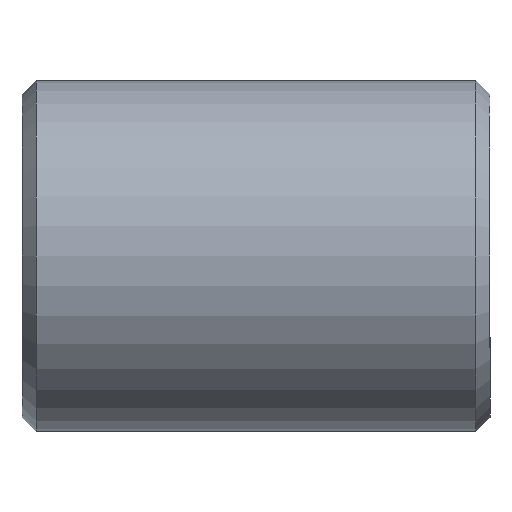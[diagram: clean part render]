
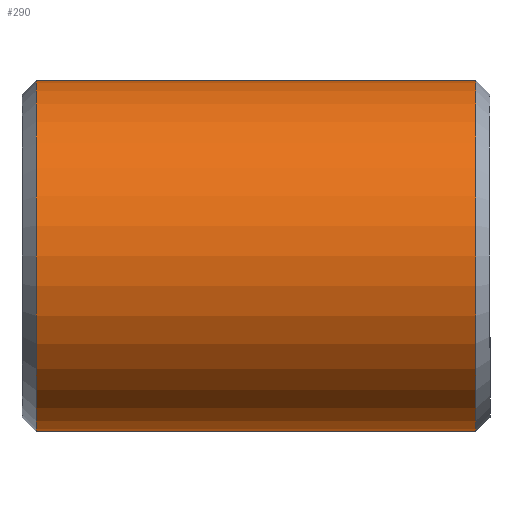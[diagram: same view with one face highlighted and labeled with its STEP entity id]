
A CAD part, front view. The second image highlights one B-rep face of the part: STEP entity #290.
In plain terms, the highlighted cylindrical face has radius 4.763 mm (diameter 9.525 mm), a partial arc.
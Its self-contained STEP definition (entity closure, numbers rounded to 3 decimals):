
#182=CARTESIAN_POINT('POINT13',(-12.319,0.,
   -4.763));
#183=VERTEX_POINT('VERTEX13',#182);
#191=CARTESIAN_POINT('POINT14',(-12.319,0.,
   4.763));
#192=VERTEX_POINT('VERTEX14',#191);
#199=CARTESIAN_POINT('POS20',(-12.319,0.,
   0.));
#200=DIRECTION('DIR31',(1.,0.,
   0.));
#201=DIRECTION('DIR32',(0.,0.,
   1.));
#202=AXIS2_PLACEMENT_3D('AXIS12',#199,#200,#201);
#203=CIRCLE('ELLIPSE7',#202,4.763);
#214=CARTESIAN_POINT('POINT15',(-0.381,
   0.,4.763));
#215=VERTEX_POINT('VERTEX15',#214);
#223=CARTESIAN_POINT('POINT16',(-0.381,
   0.,-4.763));
#224=VERTEX_POINT('VERTEX16',#223);
#231=CARTESIAN_POINT('POS24',(-0.381,0.,0.
   ));
#232=DIRECTION('DIR37',(-1.,0.,
   0.));
#233=DIRECTION('DIR38',(0.,0.,
   1.));
#234=AXIS2_PLACEMENT_3D('AXIS14',#231,#232,#233);
#235=CIRCLE('ELLIPSE8',#234,4.763);
#247=EDGE_CURVE('EDGE25',#224,#215,#235,.T.);
#255=EDGE_CURVE('EDGE26',#192,#183,#203,.T.);
#262=CARTESIAN_POINT('POS26',(-6.35,0.,
   4.763));
#263=DIRECTION('DIR41',(1.,0.,0.));
#264=VECTOR('VEC11',#263,1.);
#265=LINE('STRAIGHT11',#262,#264);
#266=EDGE_CURVE('EDGE27',#192,#215,#265,.T.);
#269=CARTESIAN_POINT('POS27',(-6.35,0.,
   -4.763));
#270=DIRECTION('DIR42',(-1.,0.,0.));
#271=VECTOR('VEC12',#270,1.);
#272=LINE('STRAIGHT12',#269,#271);
#273=EDGE_CURVE('EDGE28',#224,#183,#272,.T.);
#278=CARTESIAN_POINT('POS28',(-6.35,0.,0.
   ));
#279=DIRECTION('DIR43',(1.,0.,
   0.));
#280=DIRECTION('DIR44',(0.,0.,
   1.));
#281=AXIS2_PLACEMENT_3D('AXIS16',#278,#279,#280);
#282=CYLINDRICAL_SURFACE('CONE_SURF6',#281,4.763);
#284=ORIENTED_EDGE('COEDGE53',*,*,#266,.F.);
#285=ORIENTED_EDGE('COEDGE54',*,*,#255,.T.);
#286=ORIENTED_EDGE('COEDGE55',*,*,#273,.F.);
#287=ORIENTED_EDGE('COEDGE56',*,*,#247,.T.);
#288=EDGE_LOOP('NONE',(#284,#285,#286,#287));
#289=FACE_BOUND('LOOP1',#288,.T.);
#290=ADVANCED_FACE('FACE14',(#289),#282,.T.);
